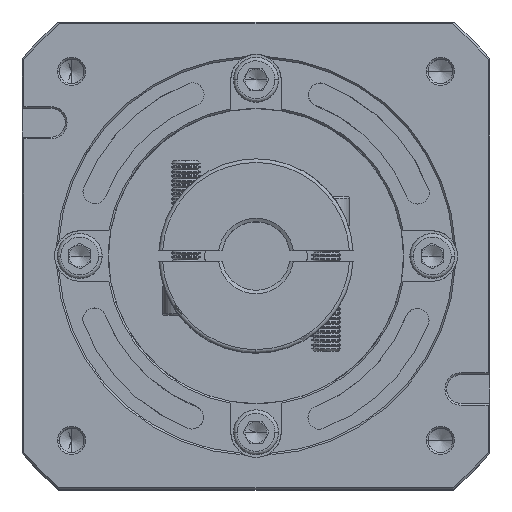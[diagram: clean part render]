
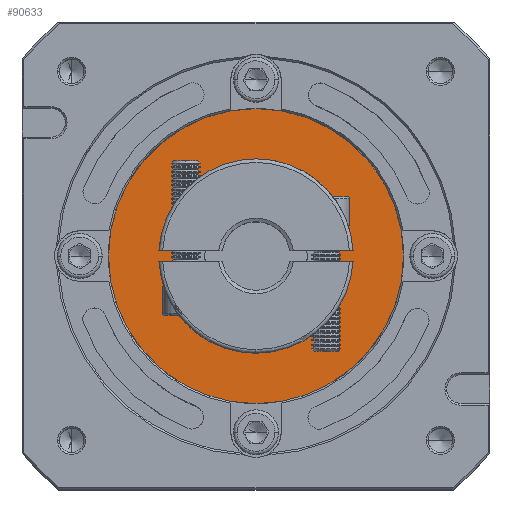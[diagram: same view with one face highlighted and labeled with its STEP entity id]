
A CAD part, top view. The second image highlights one B-rep face of the part: STEP entity #90633.
In plain terms, the highlighted planar face has unit normal (0, 0, 1).
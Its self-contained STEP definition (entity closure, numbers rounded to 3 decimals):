
#1273 = CARTESIAN_POINT ( 'NONE',  ( 12.908, 53.71, -30.444 ) ) ;
#4083 = FACE_BOUND ( 'NONE', #123450, .T. ) ;
#6222 = CARTESIAN_POINT ( 'NONE',  ( 73.908, 53.71, -30.444 ) ) ;
#9389 = AXIS2_PLACEMENT_3D ( 'NONE', #107480, #87194, #11783 ) ;
#11783 = DIRECTION ( 'NONE',  ( 1., 0., 0. ) ) ;
#13488 = DIRECTION ( 'NONE',  ( 1., 0., 0. ) ) ;
#25423 = CIRCLE ( 'NONE', #9389, 20. ) ;
#25586 = CIRCLE ( 'NONE', #26804, 20. ) ;
#26804 = AXIS2_PLACEMENT_3D ( 'NONE', #41365, #123717, #40444 ) ;
#29552 = VERTEX_POINT ( 'NONE', #1273 ) ;
#31519 = EDGE_LOOP ( 'NONE', ( #42023, #37620 ) ) ;
#37620 = ORIENTED_EDGE ( 'NONE', *, *, #136113, .T. ) ;
#38695 = ORIENTED_EDGE ( 'NONE', *, *, #128519, .T. ) ;
#40444 = DIRECTION ( 'NONE',  ( 1., 0., 0. ) ) ;
#41365 = CARTESIAN_POINT ( 'NONE',  ( 53.908, 53.71, -30.444 ) ) ;
#42023 = ORIENTED_EDGE ( 'NONE', *, *, #93570, .T. ) ;
#42143 = AXIS2_PLACEMENT_3D ( 'NONE', #76581, #86648, #13488 ) ;
#49516 = DIRECTION ( 'NONE',  ( 1., 0., 0. ) ) ;
#50306 = FACE_OUTER_BOUND ( 'NONE', #31519, .T. ) ;
#52144 = AXIS2_PLACEMENT_3D ( 'NONE', #131248, #130787, #110036 ) ;
#52591 = VERTEX_POINT ( 'NONE', #107824 ) ;
#54959 = EDGE_CURVE ( 'NONE', #62378, #52591, #25586, .T. ) ;
#62378 = VERTEX_POINT ( 'NONE', #6222 ) ;
#70687 = ORIENTED_EDGE ( 'NONE', *, *, #54959, .T. ) ;
#76581 = CARTESIAN_POINT ( 'NONE',  ( 53.908, 53.71, -30.444 ) ) ;
#77378 = PLANE ( 'NONE',  #52144 ) ;
#84766 = CIRCLE ( 'NONE', #113911, 41. ) ;
#86648 = DIRECTION ( 'NONE',  ( 0., 0., 1. ) ) ;
#87194 = DIRECTION ( 'NONE',  ( 0., 0., -1. ) ) ;
#90633 = ADVANCED_FACE ( 'NONE', ( #50306, #4083 ), #77378, .T. ) ;
#93570 = EDGE_CURVE ( 'NONE', #113412, #29552, #105235, .T. ) ;
#98379 = CARTESIAN_POINT ( 'NONE',  ( 94.908, 53.71, -30.444 ) ) ;
#103697 = CARTESIAN_POINT ( 'NONE',  ( 53.908, 53.71, -30.444 ) ) ;
#105235 = CIRCLE ( 'NONE', #42143, 41. ) ;
#107480 = CARTESIAN_POINT ( 'NONE',  ( 53.908, 53.71, -30.444 ) ) ;
#107824 = CARTESIAN_POINT ( 'NONE',  ( 33.908, 53.71, -30.444 ) ) ;
#110036 = DIRECTION ( 'NONE',  ( 1., 0., 0. ) ) ;
#112453 = DIRECTION ( 'NONE',  ( 0., 0., 1. ) ) ;
#113412 = VERTEX_POINT ( 'NONE', #98379 ) ;
#113911 = AXIS2_PLACEMENT_3D ( 'NONE', #103697, #112453, #49516 ) ;
#123450 = EDGE_LOOP ( 'NONE', ( #70687, #38695 ) ) ;
#123717 = DIRECTION ( 'NONE',  ( 0., 0., -1. ) ) ;
#128519 = EDGE_CURVE ( 'NONE', #52591, #62378, #25423, .T. ) ;
#130787 = DIRECTION ( 'NONE',  ( 0., 0., 1. ) ) ;
#131248 = CARTESIAN_POINT ( 'NONE',  ( 53.908, 53.71, -30.444 ) ) ;
#136113 = EDGE_CURVE ( 'NONE', #29552, #113412, #84766, .T. ) ;
